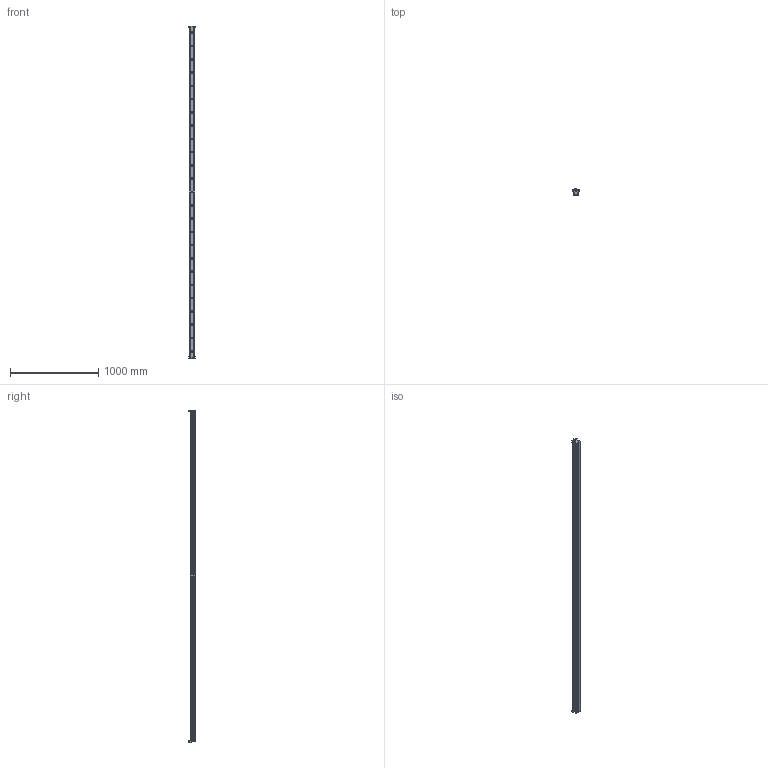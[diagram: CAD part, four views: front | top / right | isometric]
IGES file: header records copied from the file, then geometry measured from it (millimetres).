
Start section: 3D InterOp IGES (v. 2019 1.0.2), Spatial Corp. Copyright (c) 1999-2017.
Global section: file name: R1605.3_size65.igs; native system: Spatial Corp.; preprocessor: 3D InterOp GENERIC/IGES 3.0; author: Noname; organization: Noname; date: 20220629.163439; units: millimetre
Bounding box: 73.18 x 74.85 x 3752.3 mm (x, y, z)
Surface area: 1506356.6 mm2 (no closed solid volume)
Topology: 0 solids, 0 shells, 465 faces, 2368 edges, 2364 vertices
Faces by surface type: revolution 242, extrusion 223
